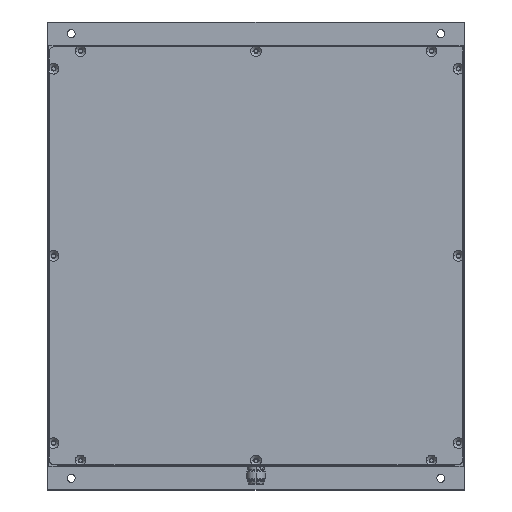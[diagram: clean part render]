
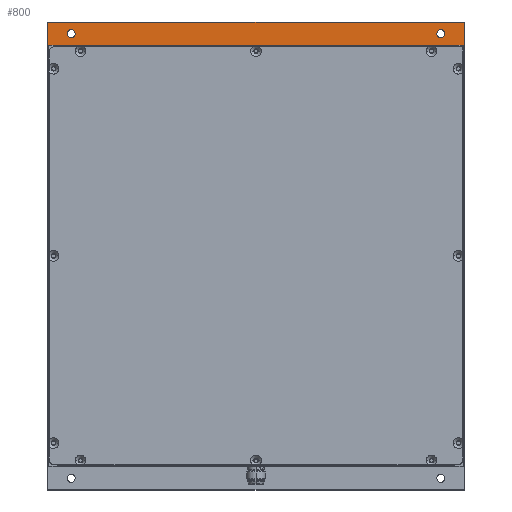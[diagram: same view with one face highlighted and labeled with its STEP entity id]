
A CAD part, top view. The second image highlights one B-rep face of the part: STEP entity #800.
In plain terms, the highlighted planar face has unit normal (0, 0, 1).
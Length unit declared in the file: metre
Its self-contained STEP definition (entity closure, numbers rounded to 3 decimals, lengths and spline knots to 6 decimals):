
#800=ADVANCED_FACE('0:51694',(#1875,#1876,#1877),#1878,.T.);
#1875=FACE_BOUND('',#3287,.T.);
#1876=FACE_BOUND('',#3288,.T.);
#1877=FACE_OUTER_BOUND('',#3289,.T.);
#1878=PLANE('',#3290);
#3287=EDGE_LOOP('',(#5508,#5509));
#3288=EDGE_LOOP('',(#5510,#5511));
#3289=EDGE_LOOP('',(#5512,#5513,#5514,#5515));
#3290=AXIS2_PLACEMENT_3D('',#5516,#5517,#5518);
#5508=ORIENTED_EDGE('',*,*,#8856,.T.);
#5509=ORIENTED_EDGE('',*,*,#8493,.T.);
#5510=ORIENTED_EDGE('',*,*,#8857,.T.);
#5511=ORIENTED_EDGE('',*,*,#8503,.T.);
#5512=ORIENTED_EDGE('',*,*,#8858,.T.);
#5513=ORIENTED_EDGE('',*,*,#8859,.F.);
#5514=ORIENTED_EDGE('',*,*,#8860,.F.);
#5515=ORIENTED_EDGE('',*,*,#8861,.F.);
#5516=CARTESIAN_POINT('',(-0.084,0.1,0.0025));
#5517=DIRECTION('',(0.0,0.0,1.0));
#5518=DIRECTION('',(1.0,-0.0,0.0));
#8493=EDGE_CURVE('0:52336',#10166,#10170,#10172,.T.);
#8503=EDGE_CURVE('0:52339',#10184,#10188,#10190,.T.);
#8856=EDGE_CURVE('0:52336',#10170,#10166,#10744,.T.);
#8857=EDGE_CURVE('0:52339',#10188,#10184,#10745,.T.);
#8858=EDGE_CURVE('0:52342',#10746,#10747,#10748,.T.);
#8859=EDGE_CURVE('0:52345',#10749,#10747,#10750,.T.);
#8860=EDGE_CURVE('0:52348',#10751,#10749,#10752,.F.);
#8861=EDGE_CURVE('0:52351',#10746,#10751,#10753,.T.);
#10166=VERTEX_POINT('',#12546);
#10170=VERTEX_POINT('',#12551);
#10172=CIRCLE('',#12554,0.0017);
#10184=VERTEX_POINT('',#12568);
#10188=VERTEX_POINT('',#12573);
#10190=CIRCLE('',#12576,0.0017);
#10744=CIRCLE('',#13376,0.0017);
#10745=CIRCLE('',#13377,0.0017);
#10746=VERTEX_POINT('',#13378);
#10747=VERTEX_POINT('',#13379);
#10748=LINE('',#13380,#13381);
#10749=VERTEX_POINT('',#13382);
#10750=LINE('',#13383,#13384);
#10751=VERTEX_POINT('',#13385);
#10752=LINE('',#13386,#13387);
#10753=LINE('',#13388,#13389);
#12546=CARTESIAN_POINT('',(0.0773,0.095,0.0025));
#12551=CARTESIAN_POINT('',(0.0807,0.095,0.0025));
#12554=AXIS2_PLACEMENT_3D('',#16120,#16121,#16122);
#12568=CARTESIAN_POINT('',(-0.0807,0.095,0.0025));
#12573=CARTESIAN_POINT('',(-0.0773,0.095,0.0025));
#12576=AXIS2_PLACEMENT_3D('',#16136,#16137,#16138);
#13376=AXIS2_PLACEMENT_3D('',#16649,#16650,#16651);
#13377=AXIS2_PLACEMENT_3D('',#16652,#16653,#16654);
#13378=CARTESIAN_POINT('',(-0.089,0.09,0.0025));
#13379=CARTESIAN_POINT('',(0.089,0.09,0.0025));
#13380=CARTESIAN_POINT('',(0.0015,0.09,0.0025));
#13381=VECTOR('',#16655,1.0);
#13382=CARTESIAN_POINT('',(0.089,0.1,0.0025));
#13383=CARTESIAN_POINT('',(0.089,0.05,0.0025));
#13384=VECTOR('',#16656,1.0);
#13385=CARTESIAN_POINT('',(-0.089,0.1,0.0025));
#13386=CARTESIAN_POINT('',(-0.042,0.1,0.0025));
#13387=VECTOR('',#16657,1.0);
#13388=CARTESIAN_POINT('',(-0.089,0.05,0.0025));
#13389=VECTOR('',#16658,1.0);
#16120=CARTESIAN_POINT('',(0.079,0.095,0.0025));
#16121=DIRECTION('',(0.0,0.0,-1.0));
#16122=DIRECTION('',(-1.0,0.0,0.0));
#16136=CARTESIAN_POINT('',(-0.079,0.095,0.0025));
#16137=DIRECTION('',(0.0,0.0,-1.0));
#16138=DIRECTION('',(-1.0,0.0,0.0));
#16649=CARTESIAN_POINT('',(0.079,0.095,0.0025));
#16650=DIRECTION('',(0.0,0.0,-1.0));
#16651=DIRECTION('',(-1.0,0.0,0.0));
#16652=CARTESIAN_POINT('',(-0.079,0.095,0.0025));
#16653=DIRECTION('',(0.0,0.0,-1.0));
#16654=DIRECTION('',(-1.0,0.0,0.0));
#16655=DIRECTION('',(1.0,0.,-0.0));
#16656=DIRECTION('',(0.0,-1.0,0.0));
#16657=DIRECTION('',(-1.0,0.0,0.0));
#16658=DIRECTION('',(0.0,1.0,-0.0));
